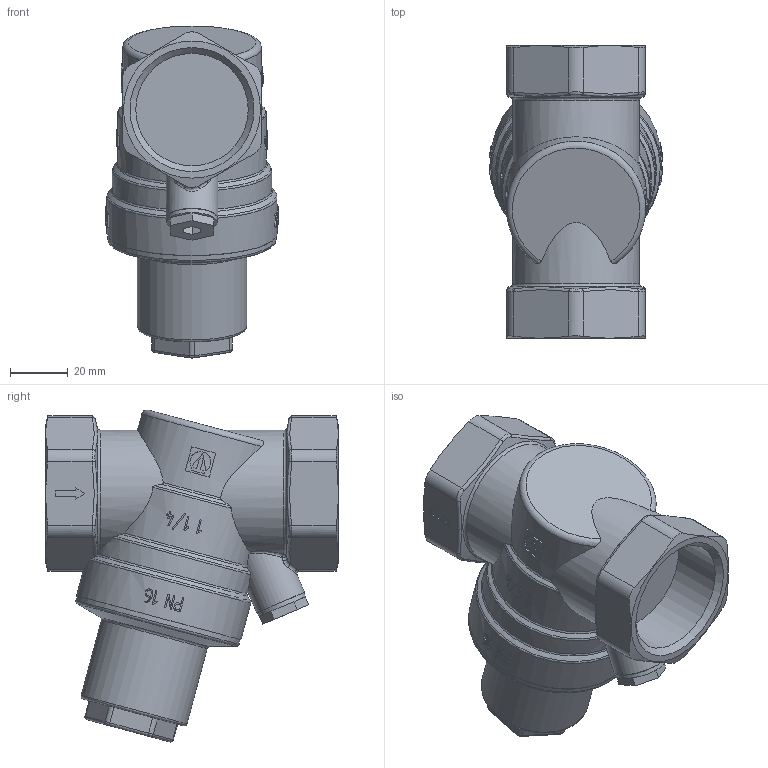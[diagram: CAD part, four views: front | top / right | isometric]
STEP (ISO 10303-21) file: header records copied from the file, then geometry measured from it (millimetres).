
FILE_DESCRIPTION(('STEP AP203'), '1');
FILE_NAME('VT.089.N.07 Ðåäóêòîð äàâëåíèÿ ìåìáðàííûé ðåãóëèðóåìûé DN32', '2023-06-23T11:38:31', ('IT'), ('VESTA'), 'C3D Converter', 'C3D Toolkit', '');
FILE_SCHEMA(('CONFIG_CONTROL_DESIGN'));
Length unit declared in the file: millimetre
Bounding box: 59.96 x 101.5 x 115.04 mm (x, y, z)
Volume: 255136.8 mm3; surface area: 36565 mm2
Topology: 1 solids, 1 shells, 650 faces, 1778 edges, 1167 vertices
Faces by surface type: extrusion 269, plane 247, cylinder 67, bspline 33, torus 22, cone 12
Full cylindrical faces by diameter (mm): 12 x1, 17.5 x1, 18 x1, 38 x1, 38.953 x2, 58.5 x1, 59 x1
Entity records: 39194 total; most frequent: CARTESIAN_POINT 19272, ORIENTED_EDGE 3520, DIRECTION 2074, EDGE_CURVE 1760, VERTEX_POINT 1167, VECTOR 1018, B_SPLINE_CURVE_WITH_KNOTS 978, LINE 749
